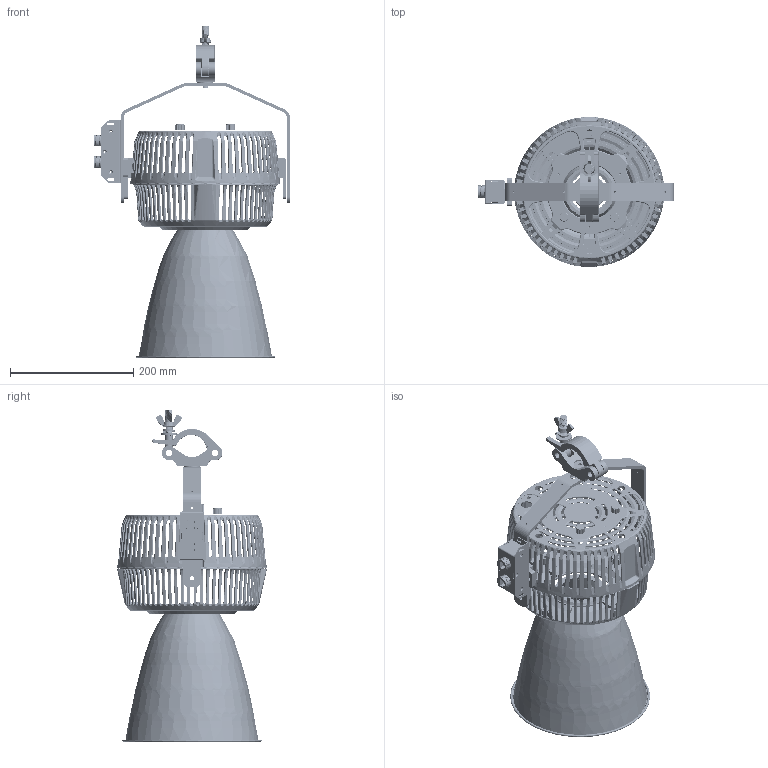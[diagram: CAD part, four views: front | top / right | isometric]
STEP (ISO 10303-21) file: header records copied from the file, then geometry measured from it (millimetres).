
FILE_DESCRIPTION (( 'STEP AP214' ), '1' );
FILE_NAME ('W2KN-CLP-fixture.STEP', '2024-02-29T20:08:56', ( '' ), ( '' ), 'SwSTEP 2.0', 'SolidWorks 2022', '' );
FILE_SCHEMA (( 'AUTOMOTIVE_DESIGN' ));
Length unit declared in the file: millimetre
Products named in the file (20): 5021926_A1_KNOB, 18T, OD=14.9, ID=6, L=10MM___^Top Assembly W2K_20220609_15_W2KN-CLP.STEP; Top Assembly W2K_20220609_15^W2KN-CLP.STEP; 5022530-2022-01-10___^Top Assembly W2K_20220609_15_W2KN-CLP.STEP; DMX Signal Cable_X2___^Top Assembly W2K_20220609_15_W2KN-CLP.STEP; W2KN-CLP-fixture; SCREW, PAN HEAD SUS-304, M4.0 x L5mm___^REFLECTOR-30____Top Assembly W2K_20220609_15_W2KN-CLP.STEP; 5022499_X2_Single Arm Pivot Base___^Top Assembly W2K_20220609_15_W2KN-CLP.STEP; TOP COVER_X2___^DMX Signal Cable_X2____Top Assembly W2K_20220609_15_W2KN-CLP.STEP; 5022496_X2_Yoke Adapter___^Top Assembly W2K_20220609_15_W2KN-CLP.STEP; 5022495-XXX_A3_Yoke, 275x30x195mm___^CLP+TOKE____Top Assembly W2K_20220609_15_W2KN-CLP.STEP; RJ45_WaterProof_3352I02029___^DMX Signal Cable_X2____Top Assembly W2K_20220609_15_W2KN-CLP.STEP; 5022645-XXX_A1_REFLECTOR-30 FOR W2K___^REFLECTOR-30____Top Assembly W2K_20220609_15_W2KN-CLP.STEP; CLP+TOKE___^Top Assembly W2K_20220609_15_W2KN-CLP.STEP; BOTTOM COVER_X2___^DMX Signal Cable_X2____Top Assembly W2K_20220609_15_W2KN-CLP.STEP; WASHER ID4.2,OD10,T=1___^REFLECTOR-30____Top Assembly W2K_20220609_15_W2KN-CLP.STEP; REFLECTOR-30___^Top Assembly W2K_20220609_15_W2KN-CLP.STEP; RJ45_WaterProof_3352I02029-PCB Housing___^RJ45_WaterProof_3352I02029____DMX Signal Cable_X2____Top Assembly W2K_20220609_15_W2KN-CLP.STEP; 5021736-006_A2_Aluminum Hook, M12_Original^CLP+TOKE____Top Assembly W2K_20220609_15_W2KN-CLP.STEP; SCREW, M8 L8 CAP HEAD, HEX SOCKET, SUS, BLACK___^Top Assembly W2K_20220609_15_W2KN-CLP.STEP; 5022531_X1_BOTTOM HOUSING FOR W2K&A2K^Top Assembly W2K_20220609_15_W2KN-CLP.STEP
Assembly tree (28 placements, depth 5):
  W2KN-CLP-fixture
    Top Assembly W2K_20220609_15^W2KN-CLP.STEP
      DMX Signal Cable_X2___^Top Assembly W2K_20220609_15_W2KN-CLP.STEP
        RJ45_WaterProof_3352I02029___^DMX Signal Cable_X2____Top Assembly W2K_20220609_15_W2KN-CLP.STEP  x2
          RJ45_WaterProof_3352I02029-PCB Housing___^RJ45_WaterProof_3352I02029____DMX Signal Cable_X2____Top Assembly W2K_20220609_15_W2KN-CLP.STEP
        BOTTOM COVER_X2___^DMX Signal Cable_X2____Top Assembly W2K_20220609_15_W2KN-CLP.STEP
        TOP COVER_X2___^DMX Signal Cable_X2____Top Assembly W2K_20220609_15_W2KN-CLP.STEP
      CLP+TOKE___^Top Assembly W2K_20220609_15_W2KN-CLP.STEP
        5021736-006_A2_Aluminum Hook, M12_Original^CLP+TOKE____Top Assembly W2K_20220609_15_W2KN-CLP.STEP
        5022495-XXX_A3_Yoke, 275x30x195mm___^CLP+TOKE____Top Assembly W2K_20220609_15_W2KN-CLP.STEP
      REFLECTOR-30___^Top Assembly W2K_20220609_15_W2KN-CLP.STEP
        5022645-XXX_A1_REFLECTOR-30 FOR W2K___^REFLECTOR-30____Top Assembly W2K_20220609_15_W2KN-CLP.STEP
        SCREW, PAN HEAD SUS-304, M4.0 x L5mm___^REFLECTOR-30____Top Assembly W2K_20220609_15_W2KN-CLP.STEP  x4
        WASHER ID4.2,OD10,T=1___^REFLECTOR-30____Top Assembly W2K_20220609_15_W2KN-CLP.STEP  x4
      5022531_X1_BOTTOM HOUSING FOR W2K&A2K^Top Assembly W2K_20220609_15_W2KN-CLP.STEP
      5022496_X2_Yoke Adapter___^Top Assembly W2K_20220609_15_W2KN-CLP.STEP  x2
      5022530-2022-01-10___^Top Assembly W2K_20220609_15_W2KN-CLP.STEP
      5021926_A1_KNOB, 18T, OD=14.9, ID=6, L=10MM___^Top Assembly W2K_20220609_15_W2KN-CLP.STEP  x2
      SCREW, M8 L8 CAP HEAD, HEX SOCKET, SUS, BLACK___^Top Assembly W2K_20220609_15_W2KN-CLP.STEP
      5022499_X2_Single Arm Pivot Base___^Top Assembly W2K_20220609_15_W2KN-CLP.STEP
Bounding box: 318.15 x 243.79 x 539.36 mm (x, y, z)
Volume: 721715.9 mm3; surface area: 708449.6 mm2
Topology: 30 solids, 30 shells, 6471 faces, 17121 edges, 10513 vertices
Faces by surface type: bspline 2423, plane 1593, cylinder 1461, torus 513, cone 463, sphere 18
Entity records: 372608 total; most frequent: CARTESIAN_POINT 249197, ORIENTED_EDGE 30256, DIRECTION 20078, EDGE_CURVE 15128, VERTEX_POINT 9207, AXIS2_PLACEMENT_3D 8385, B_SPLINE_CURVE_WITH_KNOTS 6576, EDGE_LOOP 6053
